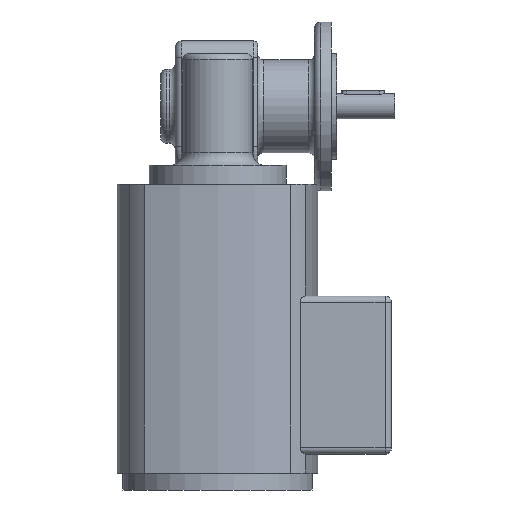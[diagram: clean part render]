
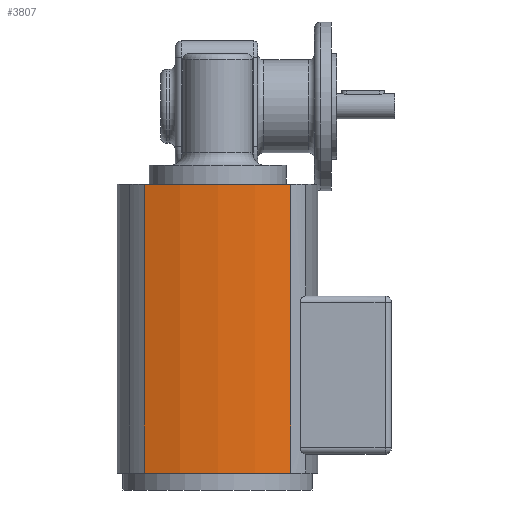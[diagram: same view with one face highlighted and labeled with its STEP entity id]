
A CAD part, front view. The second image highlights one B-rep face of the part: STEP entity #3807.
In plain terms, the highlighted cylindrical face has radius 107.045 mm (diameter 214.089 mm), a partial arc.
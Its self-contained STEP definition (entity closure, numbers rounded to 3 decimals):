
#625 = ORIENTED_EDGE ( 'NONE', *, *, #3892, .F. ) ;
#626 = ORIENTED_EDGE ( 'NONE', *, *, #1459, .T. ) ;
#635 = ORIENTED_EDGE ( 'NONE', *, *, #1460, .T. ) ;
#638 = ORIENTED_EDGE ( 'NONE', *, *, #3893, .F. ) ;
#750 = CIRCLE ( 'NONE', #753, 107.045 ) ;
#751 = VECTOR ( 'NONE', #2229, 1000. ) ;
#753 = AXIS2_PLACEMENT_3D ( 'NONE', #2232, #2233, #2234 ) ;
#1038 = VERTEX_POINT ( 'NONE', #3044 ) ;
#1040 = VERTEX_POINT ( 'NONE', #3045 ) ;
#1097 = AXIS2_PLACEMENT_3D ( 'NONE', #1935, #1931, #1938 ) ;
#1459 = EDGE_CURVE ( 'NONE', #1727, #2979, #3203, .T. ) ;
#1460 = EDGE_CURVE ( 'NONE', #1040, #1727, #4309, .T. ) ;
#1601 = EDGE_LOOP ( 'NONE', ( #638, #625, #635, #626 ) ) ;
#1727 = VERTEX_POINT ( 'NONE', #1830 ) ;
#1830 = CARTESIAN_POINT ( 'NONE',  ( 34.662, -41.733, -137. ) ) ;
#1858 = CARTESIAN_POINT ( 'NONE',  ( 34.662, -41.733, 0. ) ) ;
#1931 = DIRECTION ( 'NONE',  ( 0., 0., 1. ) ) ;
#1934 = FACE_OUTER_BOUND ( 'NONE', #1601, .T. ) ;
#1935 = CARTESIAN_POINT ( 'NONE',  ( 0., 59.545, -137. ) ) ;
#1937 = CYLINDRICAL_SURFACE ( 'NONE', #1097, 107.045 ) ;
#1938 = DIRECTION ( 'NONE',  ( 1., 0., 0. ) ) ;
#2208 = CARTESIAN_POINT ( 'NONE',  ( -34.662, -41.733, -137. ) ) ;
#2225 = LINE ( 'NONE', #2208, #751 ) ;
#2229 = DIRECTION ( 'NONE',  ( 0., 0., 1. ) ) ;
#2232 = CARTESIAN_POINT ( 'NONE',  ( 0., 59.545, 0. ) ) ;
#2233 = DIRECTION ( 'NONE',  ( 0., 0., 1. ) ) ;
#2234 = DIRECTION ( 'NONE',  ( 1., 0., 0. ) ) ;
#2979 = VERTEX_POINT ( 'NONE', #1858 ) ;
#3044 = CARTESIAN_POINT ( 'NONE',  ( -34.662, -41.733, 0. ) ) ;
#3045 = CARTESIAN_POINT ( 'NONE',  ( -34.662, -41.733, -137. ) ) ;
#3192 = CARTESIAN_POINT ( 'NONE',  ( 34.662, -41.733, -137. ) ) ;
#3203 = LINE ( 'NONE', #3192, #4276 ) ;
#3207 = DIRECTION ( 'NONE',  ( 0., 0., 1. ) ) ;
#3209 = CARTESIAN_POINT ( 'NONE',  ( 0., 59.545, -137. ) ) ;
#3210 = DIRECTION ( 'NONE',  ( 0., 0., 1. ) ) ;
#3211 = DIRECTION ( 'NONE',  ( 1., 0., 0. ) ) ;
#3807 = ADVANCED_FACE ( 'NONE', ( #1934 ), #1937, .T. ) ;
#3892 = EDGE_CURVE ( 'NONE', #1040, #1038, #2225, .T. ) ;
#3893 = EDGE_CURVE ( 'NONE', #1038, #2979, #750, .T. ) ;
#4276 = VECTOR ( 'NONE', #3207, 1000. ) ;
#4309 = CIRCLE ( 'NONE', #4334, 107.045 ) ;
#4334 = AXIS2_PLACEMENT_3D ( 'NONE', #3209, #3210, #3211 ) ;
